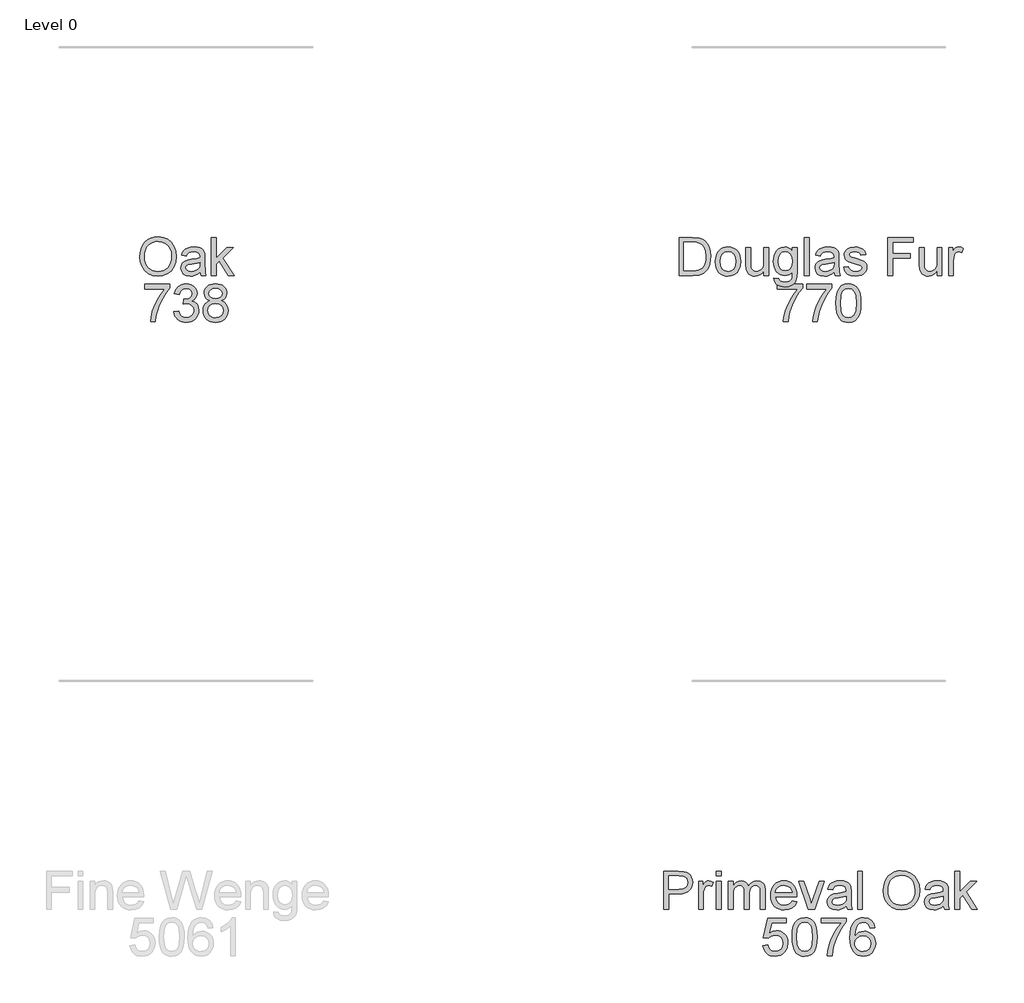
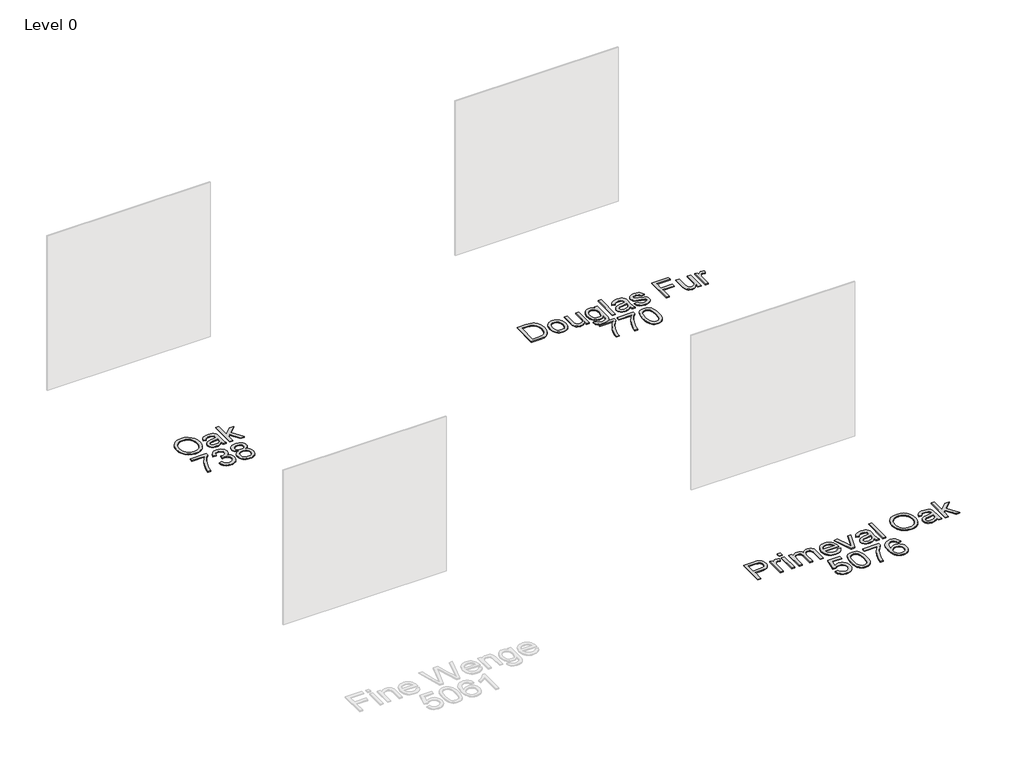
# One storey, part 12 of 16: 3 proxies.
"""IFC4 building model written with IfcOpenShell, lengths in millimetres."""

from ifc_helpers import new_model, si_unit, origin, origin_with_axes, place, context, project, spatial, polyline, outline, extrude, element, save

model = new_model("IFC4")

# Units and contexts
model_context = context("Model", 3, world=origin())
ifc_project = project(units=[si_unit("LENGTHUNIT", "METRE", prefix="MILLI")], contexts=[model_context])

# Site, building, storey
site = spatial("IfcSite", under=ifc_project)
building = spatial("IfcBuilding", under=site)
storey = spatial("IfcBuildingStorey", under=building, Name="Level 0", Elevation=0.0)

# Proxies
placement = place(None, origin())
element("IfcBuildingElementProxy", 1, Name="300mm Arial", ObjectType="300mm Arial", at=placement, inside=storey, context=model_context, shape_type="SweptSolid", body=[
    extrude(outline(polyline([(9445.107347, -17002.860494), (9445.107347, -16701.4915635), (9549.0707988, -16701.4915635), (9602.8551465, -16705.8325711), (9626.8778408, -16714.2018865), (9647.1481387, -16727.390456), (9667.9886537, -16750.3462925), (9682.8326923, -16778.8939353), (9691.7170424, -16812.4815615), (9694.6784925, -16850.557348), (9692.6735356, -16882.9033724), (9686.658665, -16911.3682418), (9677.4984033, -16935.6024682), (9666.0572733, -16955.2565638), (9652.8870978, -16970.771987), (9638.5397, -16982.590196), (9622.0677837, -16991.3549846), (9602.5240527, -16997.710146), (9554.0739939, -17002.860494), (9445.107347, -17002.860494)]), holes=[polyline([(9482.7784633, -16965.1893777), (9549.4386808, -16965.1893777), (9577.0114363, -16963.8282143), (9597.9255278, -16959.7447241), (9613.7076654, -16953.1780305), (9625.8845594, -16944.3672567), (9638.9719614, -16928.0608873), (9648.8036077, -16906.9536578), (9654.9564341, -16880.9535978), (9657.0073762, -16849.9687368), (9652.9882654, -16808.9131061), (9640.930933, -16778.5996297), (9623.1162474, -16757.7775088), (9601.8250769, -16745.1959446), (9580.1568274, -16740.670996), (9548.4086112, -16739.1626798), (9482.7784633, -16739.1626798), (9482.7784633, -16965.1893777)])]), origin_with_axes(), (0.0, 0.0, 1.0), 10.0),
    extrude(outline(polyline([(9732.3496088, -16892.2015898), (9734.3867554, -16863.5389839), (9740.498195, -16838.8403064), (9750.6839277, -16818.1055575), (9764.9439536, -16801.334737), (9779.3005484, -16790.6155754), (9795.1470654, -16782.9590314), (9812.4835044, -16778.3651049), (9831.3098655, -16776.8337961), (9852.092899, -16778.698498), (9870.8847711, -16784.2926036), (9887.685482, -16793.6161129), (9902.4950316, -16806.669026), (9914.5822544, -16823.0098843), (9923.215985, -16842.1972296), (9928.3962233, -16864.2310619), (9930.1229694, -16889.1113811), (9927.0695489, -16927.1687735), (9917.9092872, -16956.1394806), (9902.9088988, -16977.8353213), (9882.3350982, -16994.0681143), (9857.8985367, -17004.1940662), (9831.3098655, -17007.5693835), (9810.2233294, -17005.7115794), (9791.2567133, -17000.1381672), (9774.4100172, -16990.8491468), (9759.683241, -16977.8445183), (9747.7247769, -16961.3450108), (9739.1830169, -16941.5713536), (9734.0579608, -16918.5235466), (9732.3496088, -16892.2015898)]), holes=[polyline([(9770.0207251, -16892.1280134), (9774.3801268, -16926.2214773), (9787.4583317, -16950.5108861), (9807.1400184, -16965.0514219), (9831.3098655, -16969.8982672), (9855.369348, -16965.0238308), (9875.0142465, -16950.4005215), (9888.0924515, -16925.789216), (9892.4518531, -16890.950791), (9888.0648603, -16857.8506085), (9874.9038819, -16833.8922936), (9855.2313922, -16819.3517577), (9831.3098655, -16814.5049125), (9807.1400184, -16819.3333636), (9787.4583317, -16833.8187172), (9774.3801268, -16858.0529436), (9770.0207251, -16892.1280134)])]), origin_with_axes(), (0.0, 0.0, 1.0), 10.0),
    extrude(outline(polyline([(10113.7696614, -17002.860494), (10113.7696614, -16964.8214957), (10100.1396335, -16983.5236966), (10084.2655254, -16996.8824116), (10066.1473371, -17004.8976405), (10045.7850687, -17007.5693835), (10027.4369542, -17005.6931853), (10010.3580326, -17000.0645908), (9996.0290288, -16991.6033049), (9985.9306681, -16981.2290327), (9974.7102672, -16953.4907302), (9972.5029753, -16918.4683643), (9972.5029753, -16781.5426857), (10010.1740916, -16781.5426857), (10010.1740916, -16900.7364521), (10012.4549599, -16939.1433324), (10017.9455987, -16951.9548229), (10027.3541807, -16961.6944987), (10040.0553066, -16967.8473251), (10055.423577, -16969.8982672), (10071.6747641, -16967.8013398), (10086.8774876, -16961.5105577), (10099.4130665, -16951.605335), (10107.6628203, -16938.6650858), (10112.2429511, -16920.9423707), (10113.7696614, -16896.6897502), (10113.7696614, -16781.5426857), (10151.4407777, -16781.5426857), (10151.4407777, -17002.860494), (10113.7696614, -17002.860494)])), origin_with_axes(), (0.0, 0.0, 1.0), 10.0),
    extrude(outline(polyline([(10193.8207836, -17021.6960521), (10231.4918999, -17026.4049417), (10235.6489664, -17038.1771655), (10243.7055821, -17046.2705694), (10259.542902, -17052.5613515), (10280.2730524, -17054.6582789), (10302.3827603, -17052.28544), (10318.8270855, -17045.1669234), (10330.2314274, -17033.7625816), (10337.2211853, -17018.532267), (10339.7963592, -16974.6071568), (10327.2607803, -16986.9679918), (10313.2720674, -16995.7971597), (10297.8302206, -17001.0946604), (10280.93524, -17002.860494), (10260.2809652, -17000.8049533), (10242.0960984, -16994.6383314), (10226.3806394, -16984.3606281), (10213.1345883, -16969.9718436), (10202.6246596, -16952.708981), (10195.1175676, -16933.8090435), (10190.6133124, -16913.2720311), (10189.111894, -16891.0979438), (10191.8066296, -16860.6832999), (10199.8908365, -16832.7150712), (10213.079406, -16809.0142737), (10231.0872297, -16791.4019232), (10253.2981051, -16780.4758279), (10279.09583, -16776.8337961), (10296.7127791, -16778.8939353), (10312.7018503, -16785.0743528), (10327.0630437, -16795.3750487), (10339.7963592, -16809.7960229), (10339.7963592, -16781.5426857), (10377.4674755, -16781.5426857), (10377.4674755, -16972.620594), (10374.8923016, -17016.7388422), (10367.1667797, -17045.7923228), (10353.8586485, -17065.0601423), (10334.5356467, -17079.8214074), (10309.6208386, -17089.2023982), (10279.5372884, -17092.3293952), (10244.4873313, -17087.9240083), (10216.8869847, -17074.7078476), (10206.492019, -17064.7865301), (10199.1826636, -17052.644125), (10194.9589185, -17038.2806323), (10193.8207836, -17021.6960521)]), holes=[polyline([(10226.7830103, -16888.5227699), (10230.8021211, -16923.0760863), (10242.8594535, -16946.8320661), (10260.9868388, -16960.6000498), (10283.2161084, -16965.1893777), (10305.279831, -16960.6276409), (10323.4991869, -16946.9424307), (10335.7220661, -16923.4899535), (10339.7963592, -16889.6264159), (10335.6025045, -16856.9676917), (10323.0209403, -16833.4508352), (10304.53487, -16819.2413931), (10282.6274972, -16814.5049125), (10261.1155975, -16819.1678167), (10243.0801827, -16833.1565296), (10230.8573034, -16856.3238983), (10226.7830103, -16888.5227699)])]), origin_with_axes(), (0.0, 0.0, 1.0), 10.0),
    extrude(outline(polyline([(10433.97415, -17002.860494), (10433.97415, -16701.4915635), (10471.6452663, -16701.4915635), (10471.6452663, -17002.860494), (10433.97415, -17002.860494)])), origin_with_axes(), (0.0, 0.0, 1.0), 10.0),
    extrude(outline(polyline([(10669.4186269, -16974.6071568), (10651.4200003, -16990.0398064), (10632.8879448, -17000.1381672), (10613.3993961, -17005.7115794), (10592.5312899, -17007.5693835), (10561.0497882, -17003.0996173), (10537.8272372, -16989.6903186), (10523.5074306, -16969.3280501), (10518.7341617, -16943.9993748), (10520.5367835, -16928.3827841), (10525.9446488, -16914.2009331), (10534.286373, -16902.0608273), (10544.8905716, -16892.5694718), (10571.2677106, -16880.2086368), (10603.8620554, -16874.5432541), (10642.3793003, -16868.5835657), (10669.1978977, -16861.5938078), (10669.4186269, -16853.2060983), (10666.8250589, -16836.3938912), (10659.0443547, -16825.3942195), (10641.6435363, -16817.2272392), (10617.4001128, -16814.5049125), (10594.9593111, -16816.3167313), (10579.2875381, -16821.7521878), (10568.6005661, -16831.8045633), (10561.1141675, -16847.4671392), (10523.4430512, -16842.7582497), (10529.9821537, -16822.156858), (10539.7402236, -16805.9700502), (10553.6277689, -16793.590821), (10572.5552976, -16784.4121652), (10595.7042721, -16778.7283884), (10622.2561551, -16776.8337961), (10647.7227863, -16778.5076592), (10667.9103107, -16783.5292485), (10683.1314283, -16791.0800264), (10693.6988386, -16800.3414556), (10700.7069906, -16811.7917827), (10705.2503332, -16825.9092543), (10707.0897432, -16858.8714811), (10707.0897432, -16905.7396473), (10709.0027296, -16971.1858542), (10716.5075223, -17002.860494), (10678.836406, -17002.860494), (10669.4186269, -16974.6071568)]), holes=[polyline([(10669.4186269, -16899.2649241), (10608.6445213, -16910.8164188), (10576.2341175, -16916.9232599), (10561.5556259, -16926.8560738), (10556.405278, -16941.3506244), (10559.2103782, -16952.5526311), (10567.6256789, -16961.7312869), (10581.4672389, -16967.8565221), (10600.5511174, -16969.8982672), (10620.7846272, -16967.64499), (10638.6636921, -16960.8851583), (10653.1582427, -16950.9247533), (10663.2382094, -16939.069756), (10667.7079756, -16926.8560738), (10669.1978977, -16909.933502), (10669.4186269, -16899.2649241)])]), origin_with_axes(), (0.0, 0.0, 1.0), 10.0),
    extrude(outline(polyline([(10744.7608595, -16936.9360404), (10782.4319758, -16932.2271509), (10788.3732701, -16948.3403823), (10799.8695824, -16960.1861825), (10816.9944893, -16967.470246), (10839.8215671, -16969.8982672), (10862.3727334, -16967.6725811), (10878.2284474, -16960.9955229), (10887.6094383, -16951.3202265), (10890.7364352, -16940.0998256), (10887.5910442, -16930.4981055), (10878.154871, -16923.1772538), (10839.3801087, -16912.4350996), (10782.652705, -16894.0042116), (10768.2961102, -16884.7427824), (10757.8942468, -16872.4831149), (10751.5758735, -16858.0069584), (10749.4697491, -16842.0960621), (10751.1620062, -16827.5003439), (10756.2387778, -16814.0266659), (10764.2402112, -16802.2084568), (10774.7064539, -16792.5791455), (10798.6555718, -16781.4323211), (10831.0659756, -16776.8337961), (10855.5853106, -16778.6824032), (10876.9040722, -16784.2282242), (10894.0473732, -16792.9286334), (10906.0403262, -16804.2410048), (10913.9865773, -16819.0022698), (10918.9897724, -16838.0493601), (10881.3186561, -16842.7582497), (10876.5637814, -16830.9032524), (10867.1551993, -16821.972917), (10853.0009396, -16816.3719136), (10834.0090316, -16814.5049125), (10812.3775702, -16816.2891401), (10797.956596, -16821.6418232), (10789.844798, -16829.3673451), (10787.1408654, -16838.2700893), (10791.6290257, -16849.2329728), (10805.6821179, -16857.5471059), (10838.1293099, -16865.5669334), (10893.4219738, -16883.2988455), (10908.026889, -16891.7785255), (10919.100137, -16903.3852025), (10926.0806979, -16918.1556646), (10928.4075515, -16936.1267001), (10925.6760277, -16954.7047408), (10917.4814563, -16972.1791356), (10904.1365369, -16987.1795239), (10885.9539693, -16998.3355454), (10863.9914142, -17005.260924), (10839.3065323, -17007.5693835), (10801.3227163, -17003.1180114), (10773.602808, -16989.763895), (10755.0983436, -16967.654187), (10744.7608595, -16936.9360404)])), origin_with_axes(), (0.0, 0.0, 1.0), 10.0),
    extrude(outline(polyline([(11093.2186854, -17002.860494), (11093.2186854, -16701.4915635), (11295.7009355, -16701.4915635), (11295.7009355, -16739.1626798), (11130.8898017, -16739.1626798), (11130.8898017, -16828.6315811), (11272.1564878, -16828.6315811), (11272.1564878, -16866.3026974), (11130.8898017, -16866.3026974), (11130.8898017, -17002.860494), (11093.2186854, -17002.860494)])), origin_with_axes(), (0.0, 0.0, 1.0), 10.0),
    extrude(outline(polyline([(11484.056517, -17002.860494), (11484.056517, -16964.8214957), (11470.4264891, -16983.5236966), (11454.552381, -16996.8824116), (11436.4341928, -17004.8976405), (11416.0719243, -17007.5693835), (11397.7238098, -17005.6931853), (11380.6448882, -17000.0645908), (11366.3158845, -16991.6033049), (11356.2175237, -16981.2290327), (11344.9971229, -16953.4907302), (11342.7898309, -16918.4683643), (11342.7898309, -16781.5426857), (11380.4609472, -16781.5426857), (11380.4609472, -16900.7364521), (11382.7418156, -16939.1433324), (11388.2324543, -16951.9548229), (11397.6410364, -16961.6944987), (11410.3421623, -16967.8473251), (11425.7104326, -16969.8982672), (11441.9616197, -16967.8013398), (11457.1643432, -16961.5105577), (11469.6999222, -16951.605335), (11477.9496759, -16938.6650858), (11482.5298068, -16920.9423707), (11484.056517, -16896.6897502), (11484.056517, -16781.5426857), (11521.7276333, -16781.5426857), (11521.7276333, -17002.860494), (11484.056517, -17002.860494)])), origin_with_axes(), (0.0, 0.0, 1.0), 10.0),
    extrude(outline(polyline([(11573.5254183, -17002.860494), (11573.5254183, -16781.5426857), (11606.487645, -16781.5426857), (11606.487645, -16814.2841833), (11618.6645391, -16795.3014723), (11629.8849399, -16784.1178596), (11641.142129, -16778.654812), (11653.4293876, -16776.8337961), (11672.1913694, -16779.7400639), (11691.2476567, -16788.4588672), (11678.6660925, -16822.2304343), (11665.4223407, -16816.4362929), (11652.1785888, -16814.5049125), (11640.9305968, -16816.3627165), (11630.8782213, -16821.9361288), (11622.7572263, -16830.8020848), (11617.3033757, -16842.5375205), (11612.7232449, -16863.5803706), (11611.1965346, -16886.5362071), (11611.1965346, -17002.860494), (11573.5254183, -17002.860494)])), origin_with_axes(), (0.0, 0.0, 1.0), 10.0),
    extrude(outline(polyline([(10222.0741208, -17109.7960229), (10222.0741208, -17072.1249066), (10419.8474814, -17072.1249066), (10419.8474814, -17102.5855358), (10391.6585235, -17138.2608923), (10363.7454771, -17183.6299393), (10339.1249746, -17234.5540045), (10320.8136483, -17286.8944154), (10311.8373276, -17326.0554538), (10306.8341325, -17368.7849475), (10269.1630162, -17368.7849475), (10273.2373093, -17329.9550029), (10284.1358134, -17283.8042066), (10301.5642229, -17234.8850983), (10325.2282322, -17187.7502177), (10352.8561701, -17145.1402856), (10382.1763651, -17109.7960229), (10222.0741208, -17109.7960229)])), origin_with_axes(), (0.0, 0.0, 1.0), 10.0),
    extrude(outline(polyline([(10452.8097082, -17109.7960229), (10452.8097082, -17072.1249066), (10650.5830688, -17072.1249066), (10650.5830688, -17102.5855358), (10622.3941109, -17138.2608923), (10594.4810645, -17183.6299393), (10569.860562, -17234.5540045), (10551.5492357, -17286.8944154), (10542.572915, -17326.0554538), (10537.5697198, -17368.7849475), (10499.8986035, -17368.7849475), (10503.9728966, -17329.9550029), (10514.8714007, -17283.8042066), (10532.2998103, -17234.8850983), (10555.9638196, -17187.7502177), (10583.5917574, -17145.1402856), (10612.9119525, -17109.7960229), (10452.8097082, -17109.7960229)])), origin_with_axes(), (0.0, 0.0, 1.0), 10.0),
    extrude(outline(polyline([(10683.5452955, -17220.5285035), (10686.3136075, -17172.2899768), (10694.6185436, -17133.8187172), (10708.3773302, -17104.5261133), (10727.507194, -17083.8235541), (10752.1460906, -17071.5179013), (10782.4319758, -17067.4160171), (10805.6453297, -17069.8440382), (10826.4306625, -17077.1281017), (10843.8130867, -17088.983099), (10856.8177153, -17105.1239216), (10866.6401645, -17125.4126136), (10874.476051, -17149.7112194), (10879.6080049, -17180.5673217), (10881.3186561, -17220.5285035), (10878.5779353, -17268.4911186), (10870.3557727, -17306.8704077), (10856.6797595, -17336.1906027), (10837.5774869, -17356.9759355), (10812.883408, -17369.3643617), (10782.4319758, -17373.4938371), (10761.6834313, -17371.7004123), (10743.2893315, -17366.3201381), (10727.2496766, -17357.3530145), (10713.5644663, -17344.7990414), (10700.4310791, -17322.1053209), (10691.0500882, -17293.828991), (10685.4214937, -17259.9700519), (10683.5452955, -17220.5285035)]), holes=[polyline([(10721.2164118, -17220.4549271), (10725.6309958, -17279.7115194), (10731.1492257, -17299.9795181), (10738.8747476, -17314.0073184), (10758.5932225, -17330.3688702), (10782.4319758, -17335.8227207), (10806.2707291, -17330.3504761), (10825.9892041, -17313.933742), (10833.714726, -17299.8829491), (10839.2329559, -17279.6195489), (10843.6475398, -17220.4549271), (10839.3801087, -17162.5319069), (10834.0458198, -17142.3305869), (10826.5778153, -17127.9693935), (10806.8961285, -17110.8076984), (10781.9905174, -17105.0871334), (10758.4092816, -17110.1271167), (10739.4633588, -17125.2470667), (10731.4803195, -17140.8820515), (10725.7781486, -17161.9616898), (10721.2164118, -17220.4549271)])]), origin_with_axes(), (0.0, 0.0, 1.0), 10.0),
])
element("IfcBuildingElementProxy", 2, Name="300mm Arial", ObjectType="300mm Arial", at=placement, inside=storey, context=model_context, shape_type="SweptSolid", body=[
    extrude(outline(polyline([(5184.4030045, -16856.1491543), (5186.9137991, -16820.8002931), (5194.4461829, -16789.5073309), (5207.000156, -16762.2702677), (5224.5757184, -16739.0891034), (5246.1198077, -16720.5800406), (5270.5793618, -16707.3592814), (5297.9543808, -16699.4268258), (5328.2448646, -16696.782674), (5367.773785, -16701.7490809), (5403.2192152, -16716.6483017), (5432.6497748, -16740.4318727), (5454.1340833, -16772.0513302), (5467.2674706, -16809.9799639), (5471.6452663, -16852.6910636), (5467.0375443, -16895.9723803), (5453.2143784, -16934.4344429), (5430.9391235, -16966.1090827), (5400.975135, -16989.028131), (5365.8332074, -17002.9340704), (5328.0241354, -17007.5693835), (5287.8882097, -17002.4466267), (5252.2404444, -16987.0783564), (5222.8834612, -16962.853327), (5201.6198819, -16931.1602931), (5188.7072238, -16894.6939903), (5184.4030045, -16856.1491543)]), holes=[polyline([(5222.0741208, -16856.5170363), (5223.9572167, -16881.4916252), (5229.6065046, -16903.661114), (5239.0219844, -16923.0255025), (5252.2036562, -16939.5847908), (5268.2272163, -16952.8469367), (5286.1683614, -16962.3198981), (5306.0270913, -16968.0036749), (5327.8034062, -16969.8982672), (5349.9522016, -16967.9852808), (5370.0454563, -16962.2463217), (5388.0831704, -16952.6813898), (5404.0653438, -16939.2904852), (5417.1504465, -16922.381709), (5426.4969485, -16902.2631624), (5432.1048496, -16878.9348454), (5433.97415, -16852.396758), (5430.7735766, -16819.0482551), (5421.1718566, -16790.2247008), (5405.4173101, -16766.6526619), (5383.7582577, -16749.0587055), (5357.629439, -16738.1050191), (5328.4655938, -16734.4537903), (5307.4457363, -16736.2127261), (5287.943392, -16741.4895335), (5269.958561, -16750.2842124), (5253.4912432, -16762.5967629), (5239.7462521, -16779.0203948), (5229.9284014, -16800.1483176), (5224.0376909, -16825.9805314), (5222.0741208, -16856.5170363)])]), origin_with_axes(), (0.0, 0.0, 1.0), 10.0),
    extrude(outline(polyline([(5660.0008478, -16974.6071568), (5642.0022212, -16990.0398064), (5623.4701657, -17000.1381672), (5603.981617, -17005.7115794), (5583.1135108, -17007.5693835), (5551.6320091, -17003.0996173), (5528.4094582, -16989.6903186), (5514.0896515, -16969.3280501), (5509.3163826, -16943.9993748), (5511.1190044, -16928.3827841), (5516.5268697, -16914.2009331), (5524.868594, -16902.0608273), (5535.4727925, -16892.5694718), (5561.8499315, -16880.2086368), (5594.4442763, -16874.5432541), (5632.9615212, -16868.5835657), (5659.7801186, -16861.5938078), (5660.0008478, -16853.2060983), (5657.4072798, -16836.3938912), (5649.6265756, -16825.3942195), (5632.2257572, -16817.2272392), (5607.9823337, -16814.5049125), (5585.541532, -16816.3167313), (5569.869759, -16821.7521878), (5559.1827871, -16831.8045633), (5551.6963885, -16847.4671392), (5514.0252722, -16842.7582497), (5520.5643746, -16822.156858), (5530.3224445, -16805.9700502), (5544.2099899, -16793.590821), (5563.1375185, -16784.4121652), (5586.2864931, -16778.7283884), (5612.8383761, -16776.8337961), (5638.3050072, -16778.5076592), (5658.4925317, -16783.5292485), (5673.7136492, -16791.0800264), (5684.2810595, -16800.3414556), (5691.2892115, -16811.7917827), (5695.8325542, -16825.9092543), (5697.6719641, -16858.8714811), (5697.6719641, -16905.7396473), (5699.5849505, -16971.1858542), (5707.0897432, -17002.860494), (5669.4186269, -17002.860494), (5660.0008478, -16974.6071568)]), holes=[polyline([(5660.0008478, -16899.2649241), (5599.2267422, -16910.8164188), (5566.8163385, -16916.9232599), (5552.1378469, -16926.8560738), (5546.9874989, -16941.3506244), (5549.7925991, -16952.5526311), (5558.2078998, -16961.7312869), (5572.0494598, -16967.8565221), (5591.1333383, -16969.8982672), (5611.3668481, -16967.64499), (5629.245913, -16960.8851583), (5643.7404637, -16950.9247533), (5653.8204303, -16939.069756), (5658.2901966, -16926.8560738), (5659.7801186, -16909.933502), (5660.0008478, -16899.2649241)])]), origin_with_axes(), (0.0, 0.0, 1.0), 10.0),
    extrude(outline(polyline([(5749.4697491, -17002.860494), (5749.4697491, -16701.4915635), (5787.1408654, -16701.4915635), (5787.1408654, -16863.4332178), (5871.6065715, -16781.5426857), (5923.698662, -16781.5426857), (5838.2028863, -16864.4632874), (5928.4075515, -17002.860494), (5884.4088649, -17002.860494), (5811.2003479, -16890.6564855), (5787.1408654, -16913.9802039), (5787.1408654, -17002.860494), (5749.4697491, -17002.860494)])), origin_with_axes(), (0.0, 0.0, 1.0), 10.0),
    extrude(outline(polyline([(5222.0741208, -17109.7960229), (5222.0741208, -17072.1249066), (5419.8474814, -17072.1249066), (5419.8474814, -17102.5855358), (5391.6585235, -17138.2608923), (5363.7454771, -17183.6299393), (5339.1249746, -17234.5540045), (5320.8136483, -17286.8944154), (5311.8373276, -17326.0554538), (5306.8341325, -17368.7849475), (5269.1630162, -17368.7849475), (5273.2373093, -17329.9550029), (5284.1358134, -17283.8042066), (5301.5642229, -17234.8850983), (5325.2282322, -17187.7502177), (5352.8561701, -17145.1402856), (5382.1763651, -17109.7960229), (5222.0741208, -17109.7960229)])), origin_with_axes(), (0.0, 0.0, 1.0), 10.0),
    extrude(outline(polyline([(5452.8097082, -17288.7338254), (5490.4808245, -17284.0249358), (5498.9145192, -17307.6981422), (5511.2661572, -17323.6826149), (5528.1427437, -17332.7876943), (5550.1512841, -17335.8227207), (5575.9766001, -17331.6472601), (5595.9158043, -17319.1208782), (5608.6629154, -17300.4324728), (5612.9119525, -17277.7709419), (5608.6997036, -17256.2590422), (5596.0629571, -17238.8122386), (5576.9330933, -17227.2515469), (5553.2414928, -17223.397983), (5526.8275656, -17227.5182614), (5531.0214203, -17189.8471451), (5537.0546851, -17190.2886035), (5559.6242455, -17187.5846708), (5579.8025729, -17179.4728728), (5594.0396061, -17165.7508744), (5598.7852838, -17146.2163404), (5595.3455872, -17129.9467592), (5585.0264972, -17116.7489926), (5569.2811478, -17108.0025982), (5549.5626729, -17105.0871334), (5529.8074097, -17108.0301893), (5513.6573902, -17116.8593572), (5501.8667722, -17131.574637), (5495.189714, -17152.1760288), (5457.5185977, -17147.4671392), (5468.6102399, -17113.6403898), (5488.3471089, -17088.3852908), (5515.3496473, -17072.6583355), (5548.2382977, -17067.4160171), (5571.9207011, -17070.0003881), (5593.6717241, -17077.7535011), (5612.0106416, -17089.9855775), (5625.4567285, -17106.0068384), (5633.7064822, -17124.4653175), (5636.4564002, -17144.0090485), (5633.844438, -17162.2192072), (5626.0085515, -17178.7371088), (5613.0591053, -17192.8085951), (5595.1064639, -17203.6795081), (5618.6876998, -17213.2076518), (5636.1620946, -17229.4312477), (5646.9778252, -17251.4673793), (5650.5830688, -17278.4331295), (5648.780447, -17297.5445992), (5643.3725817, -17315.1477526), (5634.3594728, -17331.2425899), (5621.7411203, -17345.829111), (5606.3682515, -17357.9324287), (5589.0915933, -17366.5776555), (5569.9111457, -17371.7647917), (5548.8269089, -17373.4938371), (5529.7706215, -17372.0177105), (5512.4065914, -17367.589331), (5496.7348184, -17360.2086985), (5482.7553026, -17349.875813), (5471.0336625, -17337.1976797), (5462.1355167, -17322.781304), (5456.0608653, -17306.6266859), (5452.8097082, -17288.7338254)])), origin_with_axes(), (0.0, 0.0, 1.0), 10.0),
    extrude(outline(polyline([(5738.4332892, -17202.7965913), (5718.2641588, -17192.8637774), (5704.1098991, -17179.3992964), (5695.7497807, -17162.6790597), (5692.9630746, -17142.9789789), (5694.4805878, -17127.6153071), (5699.0331275, -17113.5300252), (5706.6206937, -17100.7231332), (5717.2432863, -17089.1946312), (5730.3904691, -17079.6664875), (5745.5518058, -17072.8606706), (5781.916941, -17067.4160171), (5818.5028055, -17072.9894293), (5833.8296891, -17079.9561946), (5847.179207, -17089.709666), (5857.9949376, -17101.4634957), (5865.7204595, -17114.4313361), (5870.3557727, -17128.613187), (5871.9008771, -17144.0090485), (5869.1509591, -17163.0745329), (5860.9012054, -17179.509661), (5847.0596453, -17192.8913686), (5827.5343084, -17202.7965913), (5850.7200712, -17214.7435591), (5867.5966577, -17232.3375155), (5877.8881565, -17254.732332), (5881.3186561, -17281.0818799), (5879.6172019, -17299.8714528), (5874.5128392, -17317.0975272), (5866.0055681, -17332.7601031), (5854.0953885, -17346.8591806), (5839.4076998, -17358.5118428), (5822.5679015, -17366.8351729), (5803.5759935, -17371.829171), (5782.4319758, -17373.4938371), (5761.2879582, -17371.8222732), (5742.2960502, -17366.8075818), (5725.4562518, -17358.4497627), (5710.7685632, -17346.748816), (5698.8583836, -17332.5508703), (5690.3511124, -17316.702054), (5685.2467498, -17299.2023674), (5683.5452955, -17280.0518103), (5687.1137509, -17252.6813898), (5697.8191169, -17230.1670117), (5715.1095707, -17213.2812282), (5738.4332892, -17202.7965913)]), holes=[polyline([(5730.6341909, -17144.0826249), (5733.97272, -17160.52695), (5743.9883073, -17173.6603373), (5760.3866473, -17182.268776), (5782.8734342, -17185.1382555), (5804.8359893, -17182.2871701), (5820.9860089, -17173.7339137), (5830.9188228, -17161.0419848), (5834.2297608, -17145.774882), (5830.8084582, -17129.9283651), (5820.5445505, -17116.822569), (5804.1738018, -17108.0209923), (5782.4319758, -17105.0871334), (5760.5521942, -17107.9566129), (5744.2090365, -17116.5650516), (5734.0279023, -17129.1834041), (5730.6341909, -17144.0826249)]), polyline([(5721.2164118, -17278.7274351), (5727.507194, -17307.0911369), (5736.2168002, -17319.2588339), (5749.7640547, -17328.317928), (5765.9876507, -17333.9465226), (5782.7262814, -17335.8227207), (5808.3676565, -17331.8771864), (5827.6078848, -17320.0405832), (5839.6376261, -17302.1155329), (5843.6475398, -17279.9046575), (5839.5088674, -17257.316703), (5827.0928501, -17238.9961796), (5807.4111633, -17226.8560738), (5781.4754826, -17222.8093718), (5756.1927925, -17226.8008915), (5737.1457022, -17238.7754504), (5725.1987344, -17256.7464859), (5721.2164118, -17278.7274351)])]), origin_with_axes(), (0.0, 0.0, 1.0), 10.0),
])
element("IfcBuildingElementProxy", 3, Name="300mm Arial", ObjectType="300mm Arial", at=placement, inside=storey, context=model_context, shape_type="SweptSolid", body=[
    extrude(outline(polyline([(9325.0306637, -22012.860494), (9325.0306637, -21711.4915635), (9436.7196375, -21711.4915635), (9481.7483937, -21714.3610431), (9501.8255536, -21719.7229232), (9518.3526522, -21728.4509235), (9531.6607834, -21740.9405172), (9542.0810409, -21757.5871775), (9548.8132814, -21777.222879), (9551.0573616, -21798.6795964), (9549.5421476, -21817.1794622), (9544.9965057, -21834.198603), (9537.4204359, -21849.7370188), (9526.8139381, -21863.7947095), (9512.2527089, -21875.4473717), (9492.8124447, -21883.7707019), (9468.4931456, -21888.7647), (9439.2948114, -21890.429366), (9362.7017801, -21890.429366), (9362.7017801, -22012.860494), (9325.0306637, -22012.860494)]), holes=[polyline([(9362.7017801, -21852.7582497), (9441.5021034, -21852.7582497), (9474.9057886, -21849.3001589), (9496.9787083, -21838.9258867), (9509.284361, -21822.2792264), (9513.3862453, -21800.0039716), (9510.9674212, -21783.0813998), (9503.7109488, -21768.8075784), (9492.5181391, -21758.0654241), (9478.2903029, -21751.7378538), (9440.6191866, -21749.1626798), (9362.7017801, -21749.1626798), (9362.7017801, -21852.7582497)])]), origin_with_axes(), (0.0, 0.0, 1.0), 10.0),
    extrude(outline(polyline([(9598.146257, -22012.860494), (9598.146257, -21791.5426857), (9631.1084837, -21791.5426857), (9631.1084837, -21824.2841833), (9643.2853778, -21805.3014723), (9654.5057786, -21794.1178596), (9665.7629677, -21788.654812), (9678.0502263, -21786.8337961), (9696.8122081, -21789.7400639), (9715.8684954, -21798.4588672), (9703.2869312, -21832.2304343), (9690.0431794, -21826.4362929), (9676.7994275, -21824.5049125), (9665.5514355, -21826.3627165), (9655.49906, -21831.9361288), (9647.378065, -21840.8020848), (9641.9242144, -21852.5375205), (9637.3440835, -21873.5803706), (9635.8173733, -21896.5362071), (9635.8173733, -22012.860494), (9598.146257, -22012.860494)])), origin_with_axes(), (0.0, 0.0, 1.0), 10.0),
    extrude(outline(polyline([(9739.4129431, -22012.860494), (9739.4129431, -21791.5426857), (9777.0840594, -21791.5426857), (9777.0840594, -22012.860494), (9739.4129431, -22012.860494)])), origin_with_axes(), (0.0, 0.0, 1.0), 10.0),
    extrude(outline(polyline([(9739.4129431, -21749.1626798), (9739.4129431, -21711.4915635), (9777.0840594, -21711.4915635), (9777.0840594, -21749.1626798), (9739.4129431, -21749.1626798)])), origin_with_axes(), (0.0, 0.0, 1.0), 10.0),
    extrude(outline(polyline([(9833.5907339, -22012.860494), (9833.5907339, -21791.5426857), (9871.2618502, -21791.5426857), (9871.2618502, -21827.9630032), (9882.5926156, -21811.2335695), (9897.1607426, -21798.1277734), (9914.4695905, -21789.6572905), (9934.0225186, -21786.8337961), (9954.9733982, -21789.7124728), (9971.7672113, -21798.3485026), (9984.3119873, -21812.1716686), (9992.5157558, -21830.6117536), (10006.2469513, -21811.4588972), (10021.9095272, -21797.7782855), (10039.5034836, -21789.5699185), (10059.0288205, -21786.8337961), (10087.3465371, -21791.3863358), (10108.2882197, -21805.0439549), (10121.2284689, -21828.1745354), (10125.5418852, -21861.1459592), (10125.5418852, -22012.860494), (10087.8707689, -22012.860494), (10087.8707689, -21877.332767), (10084.37589, -21845.8788564), (10079.4646654, -21837.2060383), (10071.7207494, -21830.3910244), (10061.7603443, -21825.9764404), (10050.1996526, -21824.5049125), (10029.791399, -21828.2757029), (10013.1539357, -21839.5880743), (10002.0898847, -21859.2145787), (9998.4018677, -21887.9277684), (9998.4018677, -22012.860494), (9960.7307514, -22012.860494), (9960.7307514, -21873.1389122), (9958.5510506, -21851.8385447), (9952.0119481, -21836.6450183), (9940.5064387, -21827.5399389), (9923.4275171, -21824.5049125), (9908.9145724, -21826.5282634), (9895.5420619, -21832.5983163), (9884.505602, -21842.5679184), (9877.0008093, -21856.2899168), (9872.69659, -21875.3278101), (9871.2618502, -21901.2450966), (9871.2618502, -22012.860494), (9833.5907339, -22012.860494)])), origin_with_axes(), (0.0, 0.0, 1.0), 10.0),
    extrude(outline(polyline([(10337.0004561, -21946.9360404), (10373.9358084, -21951.64493), (10360.6276772, -21979.4752029), (10339.391689, -22000.2789297), (10310.7060905, -22013.2467701), (10275.0491281, -22017.5693835), (10251.6748258, -22015.7046817), (10230.8481064, -22010.1105761), (10212.5689697, -22000.7870668), (10196.8374159, -21987.7341537), (10184.1868738, -21971.3151204), (10175.1507723, -21951.8932503), (10169.7291114, -21929.4685435), (10167.9218911, -21904.0409998), (10169.7475055, -21877.7512327), (10175.2243487, -21854.5792656), (10184.3524207, -21834.5250983), (10197.1317215, -21817.5887309), (10212.8218886, -21804.133447), (10230.6825595, -21794.5225298), (10250.7137341, -21788.7559796), (10272.9154125, -21786.8337961), (10294.4020203, -21788.751381), (10313.8330874, -21794.5041357), (10331.2086139, -21804.0920602), (10346.5285998, -21817.5151545), (10359.0342883, -21834.4147337), (10367.966923, -21854.4321128), (10373.3265038, -21877.5672917), (10375.1130308, -21903.8202706), (10374.8923016, -21913.9738137), (10205.5930074, -21913.9738137), (10212.1137158, -21942.1719686), (10227.2612569, -21962.902119), (10249.1226445, -21975.6492302), (10275.7848921, -21979.8982672), (10295.8344608, -21977.9300985), (10312.7202444, -21972.0255925), (10326.4422428, -21961.8168672), (10337.0004561, -21946.9360404)]), holes=[polyline([(10205.5930074, -21876.3026974), (10337.4419145, -21876.3026974), (10332.3467488, -21856.4002814), (10322.3587527, -21842.1632482), (10300.3961976, -21828.9194964), (10272.7682597, -21824.5049125), (10247.375205, -21828.0273826), (10226.3783401, -21838.5947929), (10211.782622, -21855.0667092), (10205.5930074, -21876.3026974)])]), origin_with_axes(), (0.0, 0.0, 1.0), 10.0),
    extrude(outline(polyline([(10467.0835296, -22012.860494), (10389.2396994, -21791.5426857), (10429.1181077, -21791.5426857), (10476.2805795, -21924.1273567), (10490.4808245, -21968.7146546), (10504.3867639, -21926.6289543), (10551.8435413, -21791.5426857), (10591.7219495, -21791.5426857), (10514.8346125, -22012.860494), (10467.0835296, -22012.860494)])), origin_with_axes(), (0.0, 0.0, 1.0), 10.0),
    extrude(outline(polyline([(10765.9508625, -21984.6071568), (10747.9522358, -22000.0398064), (10729.4201803, -22010.1381672), (10709.9316316, -22015.7115794), (10689.0635255, -22017.5693835), (10657.5820237, -22013.0996173), (10634.3594728, -21999.6903186), (10620.0396661, -21979.3280501), (10615.2663972, -21953.9993748), (10617.069019, -21938.3827841), (10622.4768843, -21924.2009331), (10630.8186086, -21912.0608273), (10641.4228071, -21902.5694718), (10667.7999461, -21890.2086368), (10700.3942909, -21884.5432541), (10738.9115358, -21878.5835657), (10765.7301333, -21871.5938078), (10765.9508625, -21863.2060983), (10763.3572944, -21846.3938912), (10755.5765902, -21835.3942195), (10738.1757718, -21827.2272392), (10713.9323483, -21824.5049125), (10691.4915466, -21826.3167313), (10675.8197736, -21831.7521878), (10665.1328017, -21841.8045633), (10657.6464031, -21857.4671392), (10619.9752868, -21852.7582497), (10626.5143892, -21832.156858), (10636.2724592, -21815.9700502), (10650.1600045, -21803.590821), (10669.0875331, -21794.4121652), (10692.2365077, -21788.7283884), (10718.7883907, -21786.8337961), (10744.2550218, -21788.5076592), (10764.4425463, -21793.5292485), (10779.6636638, -21801.0800264), (10790.2310741, -21810.3414556), (10797.2392261, -21821.7917827), (10801.7825688, -21835.9092543), (10803.6219788, -21868.8714811), (10803.6219788, -21915.7396473), (10805.5349651, -21981.1858542), (10813.0397578, -22012.860494), (10775.3686415, -22012.860494), (10765.9508625, -21984.6071568)]), holes=[polyline([(10765.9508625, -21909.2649241), (10705.1767568, -21920.8164188), (10672.7663531, -21926.9232599), (10658.0878615, -21936.8560738), (10652.9375135, -21951.3506244), (10655.7426137, -21962.5526311), (10664.1579144, -21971.7312869), (10677.9994745, -21977.8565221), (10697.083353, -21979.8982672), (10717.3168627, -21977.64499), (10735.1959277, -21970.8851583), (10749.6904783, -21960.9247533), (10759.7704449, -21949.069756), (10764.2402112, -21936.8560738), (10765.7301333, -21919.933502), (10765.9508625, -21909.2649241)])]), origin_with_axes(), (0.0, 0.0, 1.0), 10.0),
    extrude(outline(polyline([(10855.4197637, -22012.860494), (10855.4197637, -21711.4915635), (10893.09088, -21711.4915635), (10893.09088, -22012.860494), (10855.4197637, -22012.860494)])), origin_with_axes(), (0.0, 0.0, 1.0), 10.0),
    extrude(outline(polyline([(11057.9020138, -21866.1491543), (11060.4128084, -21830.8002931), (11067.9451923, -21799.5073309), (11080.4991654, -21772.2702677), (11098.0747277, -21749.0891034), (11119.618817, -21730.5800406), (11144.0783712, -21717.3592814), (11171.4533902, -21709.4268258), (11201.7438739, -21706.782674), (11241.2727943, -21711.7490809), (11276.7182246, -21726.6483017), (11306.1487842, -21750.4318727), (11327.6330927, -21782.0513302), (11340.7664799, -21819.9799639), (11345.1442757, -21862.6910636), (11340.5365537, -21905.9723803), (11326.7133877, -21944.4344429), (11304.4381329, -21976.1090827), (11274.4741444, -21999.028131), (11239.3322168, -22012.9340704), (11201.5231447, -22017.5693835), (11161.3872191, -22012.4466267), (11125.7394537, -21997.0783564), (11096.3824705, -21972.853327), (11075.1188912, -21941.1602931), (11062.2062332, -21904.6939903), (11057.9020138, -21866.1491543)]), holes=[polyline([(11095.5731301, -21866.5170363), (11097.4562261, -21891.4916252), (11103.105514, -21913.661114), (11112.5209938, -21933.0255025), (11125.7026655, -21949.5847908), (11141.7262257, -21962.8469367), (11159.6673707, -21972.3198981), (11179.5261007, -21978.0036749), (11201.3024155, -21979.8982672), (11223.4512109, -21977.9852808), (11243.5444656, -21972.2463217), (11261.5821797, -21962.6813898), (11277.5643531, -21949.2904852), (11290.6494559, -21932.381709), (11299.9959578, -21912.2631624), (11305.603859, -21888.9348454), (11307.4731594, -21862.396758), (11304.272586, -21829.0482551), (11294.6708659, -21800.2247008), (11278.9163195, -21776.6526619), (11257.257267, -21759.0587055), (11231.1284483, -21748.1050191), (11201.9646031, -21744.4537903), (11180.9447456, -21746.2127261), (11161.4424014, -21751.4895335), (11143.4575703, -21760.2842124), (11126.9902525, -21772.5967629), (11113.2452615, -21789.0203948), (11103.4274107, -21810.1483176), (11097.5367003, -21835.9805314), (11095.5731301, -21866.5170363)])]), origin_with_axes(), (0.0, 0.0, 1.0), 10.0),
    extrude(outline(polyline([(11533.4998572, -21984.6071568), (11515.5012306, -22000.0398064), (11496.9691751, -22010.1381672), (11477.4806264, -22015.7115794), (11456.6125202, -22017.5693835), (11425.1310185, -22013.0996173), (11401.9084675, -21999.6903186), (11387.5886609, -21979.3280501), (11382.815392, -21953.9993748), (11384.6180137, -21938.3827841), (11390.0258791, -21924.2009331), (11398.3676033, -21912.0608273), (11408.9718018, -21902.5694718), (11435.3489409, -21890.2086368), (11467.9432856, -21884.5432541), (11506.4605305, -21878.5835657), (11533.279128, -21871.5938078), (11533.4998572, -21863.2060983), (11530.9062891, -21846.3938912), (11523.1255849, -21835.3942195), (11505.7247666, -21827.2272392), (11481.4813431, -21824.5049125), (11459.0405414, -21826.3167313), (11443.3687684, -21831.7521878), (11432.6817964, -21841.8045633), (11425.1953978, -21857.4671392), (11387.5242815, -21852.7582497), (11394.063384, -21832.156858), (11403.8214539, -21815.9700502), (11417.7089992, -21803.590821), (11436.6365279, -21794.4121652), (11459.7855024, -21788.7283884), (11486.3373854, -21786.8337961), (11511.8040165, -21788.5076592), (11531.991541, -21793.5292485), (11547.2126586, -21801.0800264), (11557.7800689, -21810.3414556), (11564.7882209, -21821.7917827), (11569.3315635, -21835.9092543), (11571.1709735, -21868.8714811), (11571.1709735, -21915.7396473), (11573.0839599, -21981.1858542), (11580.5887526, -22012.860494), (11542.9176363, -22012.860494), (11533.4998572, -21984.6071568)]), holes=[polyline([(11533.4998572, -21909.2649241), (11472.7257516, -21920.8164188), (11440.3153478, -21926.9232599), (11425.6368562, -21936.8560738), (11420.4865083, -21951.3506244), (11423.2916085, -21962.5526311), (11431.7069091, -21971.7312869), (11445.5484692, -21977.8565221), (11464.6323477, -21979.8982672), (11484.8658574, -21977.64499), (11502.7449224, -21970.8851583), (11517.239473, -21960.9247533), (11527.3194397, -21949.069756), (11531.7892059, -21936.8560738), (11533.279128, -21919.933502), (11533.4998572, -21909.2649241)])]), origin_with_axes(), (0.0, 0.0, 1.0), 10.0),
    extrude(outline(polyline([(11622.9687584, -22012.860494), (11622.9687584, -21711.4915635), (11660.6398747, -21711.4915635), (11660.6398747, -21873.4332178), (11745.1055808, -21791.5426857), (11797.1976713, -21791.5426857), (11711.7018957, -21874.4632874), (11801.9065609, -22012.860494), (11757.9078742, -22012.860494), (11684.6993572, -21900.6564855), (11660.6398747, -21923.9802039), (11660.6398747, -22012.860494), (11622.9687584, -22012.860494)])), origin_with_axes(), (0.0, 0.0, 1.0), 10.0),
    extrude(outline(polyline([(10106.7063271, -22298.7338254), (10144.3774434, -22294.0249358), (10151.2936249, -22316.6404815), (10163.3601544, -22332.8364863), (10180.5218494, -22342.5761621), (10202.7235278, -22345.8227207), (10229.7260663, -22341.3069693), (10249.959576, -22327.7597148), (10262.5963226, -22306.7444558), (10266.8085714, -22279.8246908), (10262.863037, -22254.4776213), (10251.0264338, -22235.0902402), (10231.2067913, -22222.7845875), (10203.312139, -22218.6827032), (10185.0376009, -22220.3197781), (10170.2395477, -22225.2310027), (10149.0863329, -22242.2271509), (10111.4152166, -22237.5182614), (10144.3774434, -22082.1249066), (10290.3530191, -22082.1249066), (10290.3530191, -22119.7960229), (10174.8380726, -22119.7960229), (10158.7248412, -22202.790201), (10185.6354092, -22186.4562404), (10213.8335641, -22181.0115869), (10232.1793793, -22182.6992456), (10249.030674, -22187.7622215), (10264.387448, -22196.2005148), (10278.2497014, -22208.0141254), (10289.7253204, -22222.4810848), (10297.9221911, -22238.8794248), (10302.8403136, -22257.2091452), (10304.4796877, -22277.470246), (10298.5751817, -22315.1413624), (10291.1945492, -22331.9351754), (10280.8616636, -22347.3678251), (10265.2082847, -22363.1729553), (10246.9429437, -22374.4623341), (10226.0656404, -22381.2359613), (10202.576375, -22383.4938371), (10165.5766434, -22377.6904986), (10149.8979726, -22370.4363255), (10136.1000985, -22360.2804832), (10124.619881, -22347.7288093), (10115.8941799, -22333.2871418), (10106.7063271, -22298.7338254)])), origin_with_axes(), (0.0, 0.0, 1.0), 10.0),
    extrude(outline(polyline([(10337.4419145, -22230.5285035), (10340.2102265, -22182.2899768), (10348.5151625, -22143.8187172), (10362.2739491, -22114.5261133), (10381.4038129, -22093.8235541), (10406.0427095, -22081.5179013), (10436.3285948, -22077.4160171), (10459.5419487, -22079.8440382), (10480.3272814, -22087.1281017), (10497.7097057, -22098.983099), (10510.7143342, -22115.1239216), (10520.5367835, -22135.4126136), (10528.37267, -22159.7112194), (10533.5046238, -22190.5673217), (10535.2152751, -22230.5285035), (10532.4745542, -22278.4911186), (10524.2523916, -22316.8704077), (10510.5763785, -22346.1906027), (10491.4741059, -22366.9759355), (10466.7800269, -22379.3643617), (10436.3285948, -22383.4938371), (10415.5800502, -22381.7004123), (10397.1859505, -22376.3201381), (10381.1462955, -22367.3530145), (10367.4610853, -22354.7990414), (10354.327698, -22332.1053209), (10344.9467072, -22303.828991), (10339.3181126, -22269.9700519), (10337.4419145, -22230.5285035)]), holes=[polyline([(10375.1130308, -22230.4549271), (10379.5276147, -22289.7115194), (10385.0458446, -22309.9795181), (10392.7713665, -22324.0073184), (10412.4898415, -22340.3688702), (10436.3285948, -22345.8227207), (10460.1673481, -22340.3504761), (10479.885823, -22323.933742), (10487.6113449, -22309.8829491), (10493.1295748, -22289.6195489), (10497.5441588, -22230.4549271), (10493.2767276, -22172.5319069), (10487.9424387, -22152.3305869), (10480.4744342, -22137.9693935), (10460.7927475, -22120.8076984), (10435.8871364, -22115.0871334), (10412.3059005, -22120.1271167), (10393.3599777, -22135.2470667), (10385.3769384, -22150.8820515), (10379.6747675, -22171.9616898), (10375.1130308, -22230.4549271)])]), origin_with_axes(), (0.0, 0.0, 1.0), 10.0),
    extrude(outline(polyline([(10568.1775018, -22119.7960229), (10568.1775018, -22082.1249066), (10765.9508625, -22082.1249066), (10765.9508625, -22112.5855358), (10737.7619046, -22148.2608923), (10709.8488582, -22193.6299393), (10685.2283557, -22244.5540045), (10666.9170294, -22296.8944154), (10657.9407087, -22336.0554538), (10652.9375135, -22378.7849475), (10615.2663972, -22378.7849475), (10619.3406903, -22339.9550029), (10630.2391944, -22293.8042066), (10647.667604, -22244.8850983), (10671.3316133, -22197.7502177), (10698.9595511, -22155.1402856), (10728.2797461, -22119.7960229), (10568.1775018, -22119.7960229)])), origin_with_axes(), (0.0, 0.0, 1.0), 10.0),
    extrude(outline(polyline([(10991.9775603, -22157.4671392), (10954.306444, -22162.1760288), (10948.2363911, -22143.5060175), (10940.0326226, -22130.7589064), (10922.9445039, -22119.0050766), (10902.2879299, -22115.0871334), (10884.7767469, -22117.3680017), (10868.2956335, -22124.2106069), (10854.1413737, -22138.622384), (10842.580682, -22158.4604206), (10834.7723867, -22186.5206198), (10831.875316, -22225.5988847), (10846.9860689, -22207.9681401), (10865.0950602, -22195.5429257), (10885.1906141, -22188.1760888), (10906.2610554, -22185.7204764), (10924.3608496, -22187.3989381), (10941.0626922, -22192.4343229), (10956.3665832, -22200.8266309), (10970.2725226, -22212.5758621), (10981.8286157, -22226.9830407), (10990.082968, -22243.349191), (10995.0355794, -22261.6743129), (10996.6864498, -22281.9584064), (10993.577847, -22308.9333537), (10984.2520384, -22333.9401323), (10969.4815763, -22355.1485293), (10950.0390128, -22370.7283318), (10926.8072648, -22380.3024607), (10900.6692491, -22383.4938371), (10878.2123525, -22381.3785156), (10857.9305583, -22375.0325512), (10839.8238663, -22364.4559438), (10823.8922767, -22349.6486935), (10810.903743, -22329.9854009), (10801.6262189, -22304.8406665), (10796.0597045, -22274.2144904), (10794.2041997, -22238.1068726), (10796.2643389, -22197.6260575), (10802.4447564, -22163.0773396), (10812.7454522, -22134.4607189), (10827.1664265, -22111.7761954), (10842.7968127, -22096.7436174), (10860.9195995, -22086.0060617), (10881.5347868, -22079.5635282), (10904.6423746, -22077.4160171), (10937.6965719, -22082.7319119), (10964.1656815, -22098.6795964), (10982.706934, -22124.0082718), (10991.9775603, -22157.4671392)]), holes=[polyline([(10831.875316, -22281.3697952), (10834.0550168, -22298.0624407), (10840.5941193, -22314.0009282), (10850.7476623, -22327.7045325), (10863.770685, -22337.6925287), (10879.4884432, -22343.7901727), (10897.7261931, -22345.8227207), (10922.5858189, -22341.6104719), (10942.1295499, -22328.9737254), (10954.7938876, -22309.1080976), (10959.0153335, -22283.2092052), (10954.8490699, -22258.3495793), (10942.3502791, -22239.3944595), (10922.4754544, -22227.3923095), (10896.1810887, -22223.3915928), (10871.3582511, -22227.3923095), (10850.6005095, -22239.3944595), (10836.5566144, -22257.8897269), (10831.875316, -22281.3697952)])]), origin_with_axes(), (0.0, 0.0, 1.0), 10.0),
])

save(model, "model.ifc")
